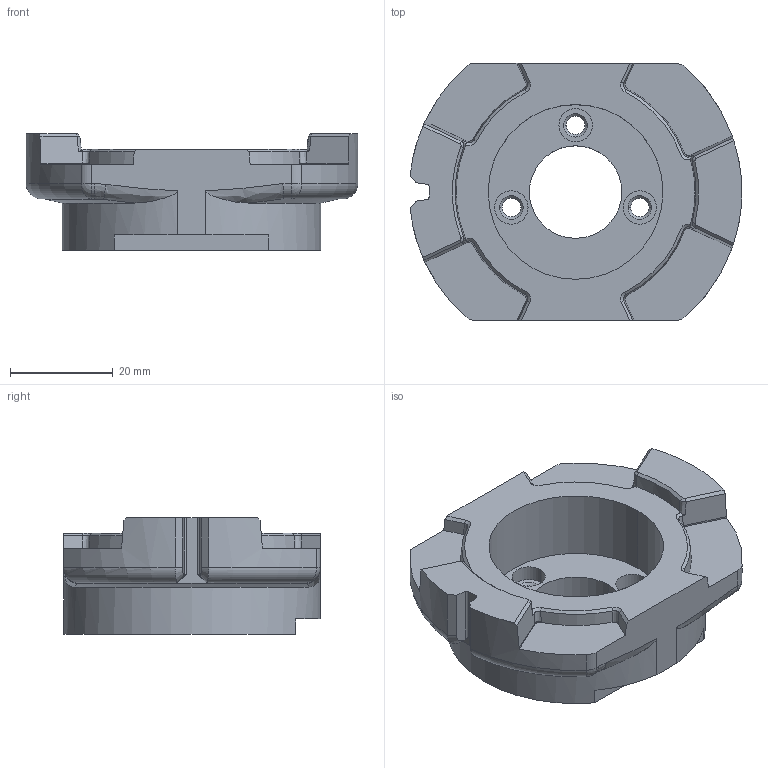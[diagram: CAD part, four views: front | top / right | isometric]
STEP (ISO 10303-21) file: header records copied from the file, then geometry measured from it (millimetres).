
FILE_DESCRIPTION((''),'2;1');
FILE_NAME('KD-C-502L_BOTTOM_WRIST_R-514872','2025-07-12T13:47:40',('Administrator'),(''),'CREO PARAMETRIC BY PTC INC, 2022073','CREO PARAMETRIC BY PTC INC, 2022073','');
FILE_SCHEMA(('CONFIG_CONTROL_DESIGN'));
Length unit declared in the file: millimetre
Products named in the file (1): KD-C-502L_BOTTOM_WRIST_R-514872
Bounding box: 64.54 x 50 x 22.7 mm (x, y, z)
Volume: 31620.4 mm3; surface area: 10818 mm2
Topology: 1 solids, 1 shells, 144 faces, 383 edges, 242 vertices
Faces by surface type: plane 50, bspline 34, cylinder 33, cone 20, torus 4, sphere 3
Entity records: 5834 total; most frequent: CARTESIAN_POINT 2447, ORIENTED_EDGE 760, DIRECTION 600, EDGE_CURVE 380, VERTEX_POINT 242, AXIS2_PLACEMENT_3D 215, VECTOR 170, LINE 170
